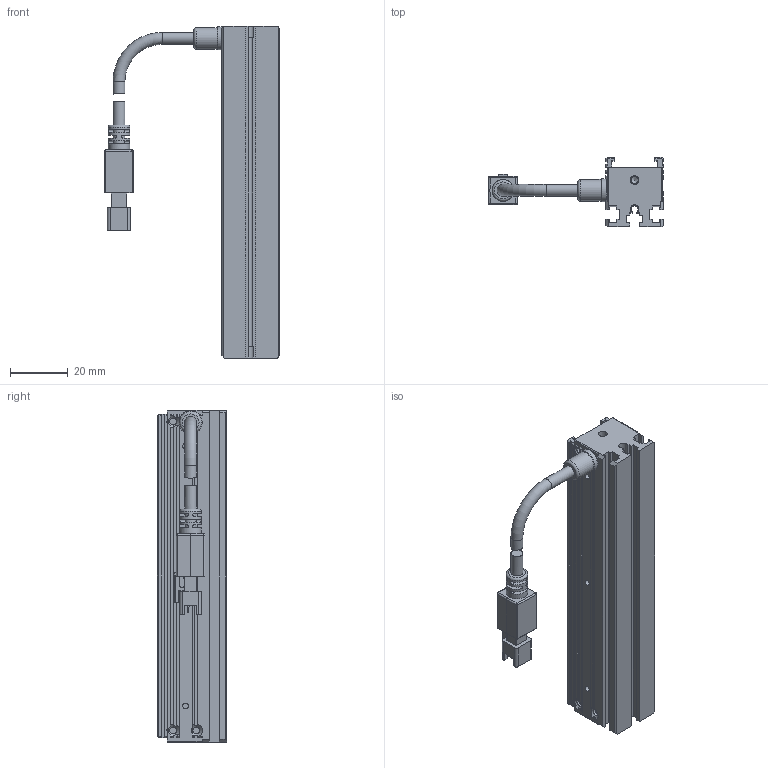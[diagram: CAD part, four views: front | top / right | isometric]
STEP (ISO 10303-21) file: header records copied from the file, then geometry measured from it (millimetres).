
FILE_DESCRIPTION (( 'STEP AP203' ), '1' );
FILE_NAME ('OPT-ILI11520-IR-V1.0尨砩芞.STEP', '2025-01-18T07:42:45', ( '' ), ( '' ), 'SwSTEP 2.0', 'SolidWorks 2016', '' );
FILE_SCHEMA (( 'CONFIG_CONTROL_DESIGN' ));
Length unit declared in the file: millimetre
Products named in the file (1): OPT-ILI11520-IR-V1.0尨砩芞
Bounding box: 60.6 x 24 x 115 mm (x, y, z)
Volume: 42923.4 mm3; surface area: 22603.6 mm2
Topology: 5 solids, 13 shells, 570 faces, 1498 edges, 964 vertices
Faces by surface type: plane 381, cylinder 131, cone 28, bspline 20, torus 10
Full cylindrical faces by diameter (mm): 1.1 x2, 1.4 x2, 1.6 x7, 2 x13, 2.4 x7, 2.5 x2, 3 x2, 3.5 x1, 4.1 x3, 7.5 x2, 8 x1
Entity records: 17569 total; most frequent: CARTESIAN_POINT 4077, ORIENTED_EDGE 2778, DIRECTION 2670, EDGE_CURVE 1389, VECTOR 942, LINE 942, VERTEX_POINT 927, AXIS2_PLACEMENT_3D 864
